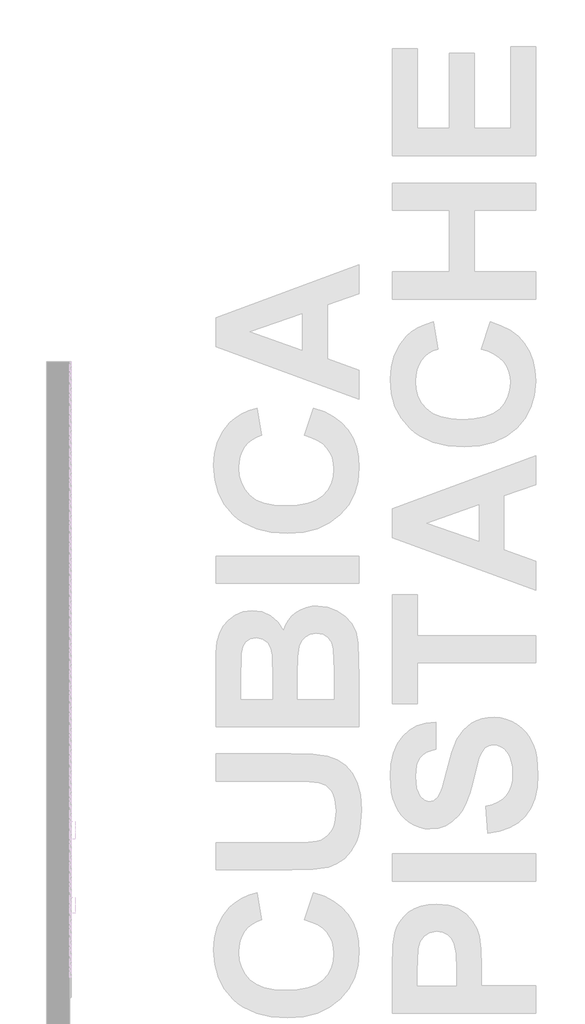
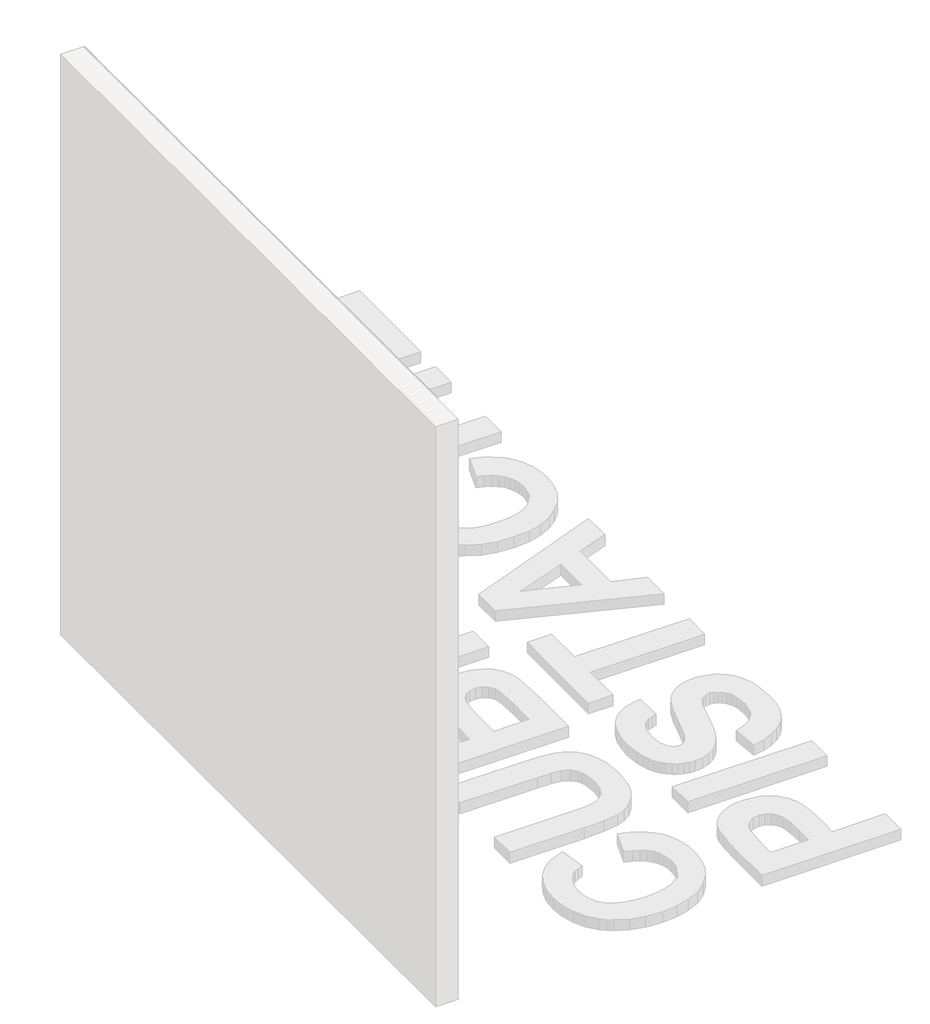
# One storey, part 95 of 121: 143 proxies.
"""IFC4 building model written with IfcOpenShell, lengths in millimetres."""

from ifc_helpers import new_model, si_unit, origin, place, context, project, spatial, transform, mapped, element, save
from components import generic_models_b2b2c5c1, generic_models_9bf73f6f, generic_models_5d175859, generic_models_336a48c1, generic_models_3c04e8e5, generic_models_0bb79e7c, generic_models_61989c10

model = new_model("IFC4")

# Units and contexts
model_context = context("Model", 3, world=origin())
ifc_project = project(units=[si_unit("LENGTHUNIT", "METRE", prefix="MILLI")], contexts=[model_context])

# Site, building, storey
site = spatial("IfcSite", under=ifc_project)
building = spatial("IfcBuilding", under=site)
storey = spatial("IfcBuildingStorey", under=building, Name="PORTOBELLO - SHOWROOM", Elevation=0.0)

# Proxies
placement = place(None, origin())
generic_models_shape = generic_models_b2b2c5c1(model_context)
element("IfcBuildingElementProxy", 1, Name="PBSHOP - CUBICA PISTACHE 4,8X8,3 : CUBICA PISTACHE - POSIÇÃO 01", ObjectType="PBSHOP - CUBICA PISTACHE 4,8X8,3 : CUBICA PISTACHE - POSIÇÃO 01", at=placement, inside=storey, context=model_context, shape_type="MappedRepresentation", body=[
    mapped(generic_models_shape, transform((150369.5341846, 15567.1454575, 1381.3110192), x_axis=(0.0, 1.0, 0.0), y_axis=(0.0, 0.0, 1.0), z_axis=(1.0, 0.0, 0.0))),
])
element("IfcBuildingElementProxy", 2, Name="PBSHOP - CUBICA PISTACHE 4,8X8,3 : CUBICA PISTACHE - POSIÇÃO 01", ObjectType="PBSHOP - CUBICA PISTACHE 4,8X8,3 : CUBICA PISTACHE - POSIÇÃO 01", at=placement, inside=storey, context=model_context, shape_type="MappedRepresentation", body=[
    mapped(generic_models_shape, transform((150369.5341846, 15067.5294767, 1460.2456575), x_axis=(0.0, 1.0, 0.0), y_axis=(0.0, 0.0, 1.0), z_axis=(1.0, 0.0, 0.0))),
])
element("IfcBuildingElementProxy", 3, Name="PBSHOP - CUBICA PISTACHE 4,8X8,3 : CUBICA PISTACHE - POSIÇÃO 01", ObjectType="PBSHOP - CUBICA PISTACHE 4,8X8,3 : CUBICA PISTACHE - POSIÇÃO 01", at=placement, inside=storey, context=model_context, shape_type="MappedRepresentation", body=[
    mapped(generic_models_shape, transform((150369.5341846, 15158.3687459, 1460.2456575), x_axis=(0.0, 1.0, 0.0), y_axis=(0.0, 0.0, 1.0), z_axis=(1.0, 0.0, 0.0))),
])
element("IfcBuildingElementProxy", 4, Name="PBSHOP - CUBICA PISTACHE 4,8X8,3 : CUBICA PISTACHE - POSIÇÃO 01", ObjectType="PBSHOP - CUBICA PISTACHE 4,8X8,3 : CUBICA PISTACHE - POSIÇÃO 01", at=placement, inside=storey, context=model_context, shape_type="MappedRepresentation", body=[
    mapped(generic_models_shape, transform((150369.5341846, 15249.2080152, 1460.2456575), x_axis=(0.0, 1.0, 0.0), y_axis=(0.0, 0.0, 1.0), z_axis=(1.0, 0.0, 0.0))),
])
element("IfcBuildingElementProxy", 5, Name="PBSHOP - CUBICA PISTACHE 4,8X8,3 : CUBICA PISTACHE - POSIÇÃO 01", ObjectType="PBSHOP - CUBICA PISTACHE 4,8X8,3 : CUBICA PISTACHE - POSIÇÃO 01", at=placement, inside=storey, context=model_context, shape_type="MappedRepresentation", body=[
    mapped(generic_models_shape, transform((150369.5341846, 15340.0472844, 1460.2456575), x_axis=(0.0, 1.0, 0.0), y_axis=(0.0, 0.0, 1.0), z_axis=(1.0, 0.0, 0.0))),
])
element("IfcBuildingElementProxy", 6, Name="PBSHOP - CUBICA PISTACHE 4,8X8,3 : CUBICA PISTACHE - POSIÇÃO 01", ObjectType="PBSHOP - CUBICA PISTACHE 4,8X8,3 : CUBICA PISTACHE - POSIÇÃO 01", at=placement, inside=storey, context=model_context, shape_type="MappedRepresentation", body=[
    mapped(generic_models_shape, transform((150369.5341846, 15430.8865536, 1460.2456575), x_axis=(0.0, 1.0, 0.0), y_axis=(0.0, 0.0, 1.0), z_axis=(1.0, 0.0, 0.0))),
])
element("IfcBuildingElementProxy", 7, Name="PBSHOP - CUBICA PISTACHE 4,8X8,3 : CUBICA PISTACHE - POSIÇÃO 01", ObjectType="PBSHOP - CUBICA PISTACHE 4,8X8,3 : CUBICA PISTACHE - POSIÇÃO 01", at=placement, inside=storey, context=model_context, shape_type="MappedRepresentation", body=[
    mapped(generic_models_shape, transform((150369.5341846, 15521.7258229, 1460.2456575), x_axis=(0.0, 1.0, 0.0), y_axis=(0.0, 0.0, 1.0), z_axis=(1.0, 0.0, 0.0))),
])
element("IfcBuildingElementProxy", 8, Name="PBSHOP - CUBICA PISTACHE 4,8X8,3 : CUBICA PISTACHE - POSIÇÃO 01", ObjectType="PBSHOP - CUBICA PISTACHE 4,8X8,3 : CUBICA PISTACHE - POSIÇÃO 01", at=placement, inside=storey, context=model_context, shape_type="MappedRepresentation", body=[
    mapped(generic_models_shape, transform((150369.5341846, 15022.109842, 1539.1802959), x_axis=(0.0, 1.0, 0.0), y_axis=(0.0, 0.0, 1.0), z_axis=(1.0, 0.0, 0.0))),
])
element("IfcBuildingElementProxy", 9, Name="PBSHOP - CUBICA PISTACHE 4,8X8,3 : CUBICA PISTACHE - POSIÇÃO 01", ObjectType="PBSHOP - CUBICA PISTACHE 4,8X8,3 : CUBICA PISTACHE - POSIÇÃO 01", at=placement, inside=storey, context=model_context, shape_type="MappedRepresentation", body=[
    mapped(generic_models_shape, transform((150369.5341846, 15112.9491113, 1539.1802959), x_axis=(0.0, 1.0, 0.0), y_axis=(0.0, 0.0, 1.0), z_axis=(1.0, 0.0, 0.0))),
])
element("IfcBuildingElementProxy", 10, Name="PBSHOP - CUBICA PISTACHE 4,8X8,3 : CUBICA PISTACHE - POSIÇÃO 01", ObjectType="PBSHOP - CUBICA PISTACHE 4,8X8,3 : CUBICA PISTACHE - POSIÇÃO 01", at=placement, inside=storey, context=model_context, shape_type="MappedRepresentation", body=[
    mapped(generic_models_shape, transform((150369.5341846, 15203.7883805, 1539.1802959), x_axis=(0.0, 1.0, 0.0), y_axis=(0.0, 0.0, 1.0), z_axis=(1.0, 0.0, 0.0))),
])
element("IfcBuildingElementProxy", 11, Name="PBSHOP - CUBICA PISTACHE 4,8X8,3 : CUBICA PISTACHE - POSIÇÃO 01", ObjectType="PBSHOP - CUBICA PISTACHE 4,8X8,3 : CUBICA PISTACHE - POSIÇÃO 01", at=placement, inside=storey, context=model_context, shape_type="MappedRepresentation", body=[
    mapped(generic_models_shape, transform((150369.5341846, 15294.6276498, 1539.1802959), x_axis=(0.0, 1.0, 0.0), y_axis=(0.0, 0.0, 1.0), z_axis=(1.0, 0.0, 0.0))),
])
element("IfcBuildingElementProxy", 12, Name="PBSHOP - CUBICA PISTACHE 4,8X8,3 : CUBICA PISTACHE - POSIÇÃO 01", ObjectType="PBSHOP - CUBICA PISTACHE 4,8X8,3 : CUBICA PISTACHE - POSIÇÃO 01", at=placement, inside=storey, context=model_context, shape_type="MappedRepresentation", body=[
    mapped(generic_models_shape, transform((150369.5341846, 15385.466919, 1539.1802959), x_axis=(0.0, 1.0, 0.0), y_axis=(0.0, 0.0, 1.0), z_axis=(1.0, 0.0, 0.0))),
])
element("IfcBuildingElementProxy", 13, Name="PBSHOP - CUBICA PISTACHE 4,8X8,3 : CUBICA PISTACHE - POSIÇÃO 01", ObjectType="PBSHOP - CUBICA PISTACHE 4,8X8,3 : CUBICA PISTACHE - POSIÇÃO 01", at=placement, inside=storey, context=model_context, shape_type="MappedRepresentation", body=[
    mapped(generic_models_shape, transform((150369.5341846, 15476.3061883, 1539.1802959), x_axis=(0.0, 1.0, 0.0), y_axis=(0.0, 0.0, 1.0), z_axis=(1.0, 0.0, 0.0))),
])
element("IfcBuildingElementProxy", 14, Name="PBSHOP - CUBICA PISTACHE 4,8X8,3 : CUBICA PISTACHE - POSIÇÃO 01", ObjectType="PBSHOP - CUBICA PISTACHE 4,8X8,3 : CUBICA PISTACHE - POSIÇÃO 01", at=placement, inside=storey, context=model_context, shape_type="MappedRepresentation", body=[
    mapped(generic_models_shape, transform((150369.5341846, 15567.1454575, 1539.1802959), x_axis=(0.0, 1.0, 0.0), y_axis=(0.0, 0.0, 1.0), z_axis=(1.0, 0.0, 0.0))),
])
element("IfcBuildingElementProxy", 15, Name="PBSHOP - CUBICA PISTACHE 4,8X8,3 : CUBICA PISTACHE - POSIÇÃO 01", ObjectType="PBSHOP - CUBICA PISTACHE 4,8X8,3 : CUBICA PISTACHE - POSIÇÃO 01", at=placement, inside=storey, context=model_context, shape_type="MappedRepresentation", body=[
    mapped(generic_models_shape, transform((150369.5341846, 15067.5294767, 1618.1149343), x_axis=(0.0, 1.0, 0.0), y_axis=(0.0, 0.0, 1.0), z_axis=(1.0, 0.0, 0.0))),
])
element("IfcBuildingElementProxy", 16, Name="PBSHOP - CUBICA PISTACHE 4,8X8,3 : CUBICA PISTACHE - POSIÇÃO 01", ObjectType="PBSHOP - CUBICA PISTACHE 4,8X8,3 : CUBICA PISTACHE - POSIÇÃO 01", at=placement, inside=storey, context=model_context, shape_type="MappedRepresentation", body=[
    mapped(generic_models_shape, transform((150369.5341846, 15158.3687459, 1618.1149343), x_axis=(0.0, 1.0, 0.0), y_axis=(0.0, 0.0, 1.0), z_axis=(1.0, 0.0, 0.0))),
])
element("IfcBuildingElementProxy", 17, Name="PBSHOP - CUBICA PISTACHE 4,8X8,3 : CUBICA PISTACHE - POSIÇÃO 01", ObjectType="PBSHOP - CUBICA PISTACHE 4,8X8,3 : CUBICA PISTACHE - POSIÇÃO 01", at=placement, inside=storey, context=model_context, shape_type="MappedRepresentation", body=[
    mapped(generic_models_shape, transform((150369.5341846, 15249.2080152, 1618.1149343), x_axis=(0.0, 1.0, 0.0), y_axis=(0.0, 0.0, 1.0), z_axis=(1.0, 0.0, 0.0))),
])
element("IfcBuildingElementProxy", 18, Name="PBSHOP - CUBICA PISTACHE 4,8X8,3 : CUBICA PISTACHE - POSIÇÃO 01", ObjectType="PBSHOP - CUBICA PISTACHE 4,8X8,3 : CUBICA PISTACHE - POSIÇÃO 01", at=placement, inside=storey, context=model_context, shape_type="MappedRepresentation", body=[
    mapped(generic_models_shape, transform((150369.5341846, 15340.0472844, 1618.1149343), x_axis=(0.0, 1.0, 0.0), y_axis=(0.0, 0.0, 1.0), z_axis=(1.0, 0.0, 0.0))),
])
element("IfcBuildingElementProxy", 19, Name="PBSHOP - CUBICA PISTACHE 4,8X8,3 : CUBICA PISTACHE - POSIÇÃO 01", ObjectType="PBSHOP - CUBICA PISTACHE 4,8X8,3 : CUBICA PISTACHE - POSIÇÃO 01", at=placement, inside=storey, context=model_context, shape_type="MappedRepresentation", body=[
    mapped(generic_models_shape, transform((150369.5341846, 15430.8865536, 1618.1149343), x_axis=(0.0, 1.0, 0.0), y_axis=(0.0, 0.0, 1.0), z_axis=(1.0, 0.0, 0.0))),
])
element("IfcBuildingElementProxy", 20, Name="PBSHOP - CUBICA PISTACHE 4,8X8,3 : CUBICA PISTACHE - POSIÇÃO 01", ObjectType="PBSHOP - CUBICA PISTACHE 4,8X8,3 : CUBICA PISTACHE - POSIÇÃO 01", at=placement, inside=storey, context=model_context, shape_type="MappedRepresentation", body=[
    mapped(generic_models_shape, transform((150369.5341846, 15521.7258229, 1618.1149343), x_axis=(0.0, 1.0, 0.0), y_axis=(0.0, 0.0, 1.0), z_axis=(1.0, 0.0, 0.0))),
])
element("IfcBuildingElementProxy", 21, Name="PBSHOP - CUBICA PISTACHE 4,8X8,3 : CUBICA PISTACHE - POSIÇÃO 01", ObjectType="PBSHOP - CUBICA PISTACHE 4,8X8,3 : CUBICA PISTACHE - POSIÇÃO 01", at=placement, inside=storey, context=model_context, shape_type="MappedRepresentation", body=[
    mapped(generic_models_shape, transform((150369.5341846, 15022.109842, 1697.0495727), x_axis=(0.0, 1.0, 0.0), y_axis=(0.0, 0.0, 1.0), z_axis=(1.0, 0.0, 0.0))),
])
element("IfcBuildingElementProxy", 22, Name="PBSHOP - CUBICA PISTACHE 4,8X8,3 : CUBICA PISTACHE - POSIÇÃO 01", ObjectType="PBSHOP - CUBICA PISTACHE 4,8X8,3 : CUBICA PISTACHE - POSIÇÃO 01", at=placement, inside=storey, context=model_context, shape_type="MappedRepresentation", body=[
    mapped(generic_models_shape, transform((150369.5341846, 15112.9491113, 1697.0495727), x_axis=(0.0, 1.0, 0.0), y_axis=(0.0, 0.0, 1.0), z_axis=(1.0, 0.0, 0.0))),
])
element("IfcBuildingElementProxy", 23, Name="PBSHOP - CUBICA PISTACHE 4,8X8,3 : CUBICA PISTACHE - POSIÇÃO 01", ObjectType="PBSHOP - CUBICA PISTACHE 4,8X8,3 : CUBICA PISTACHE - POSIÇÃO 01", at=placement, inside=storey, context=model_context, shape_type="MappedRepresentation", body=[
    mapped(generic_models_shape, transform((150369.5341846, 15203.7883805, 1697.0495727), x_axis=(0.0, 1.0, 0.0), y_axis=(0.0, 0.0, 1.0), z_axis=(1.0, 0.0, 0.0))),
])
element("IfcBuildingElementProxy", 24, Name="PBSHOP - CUBICA PISTACHE 4,8X8,3 : CUBICA PISTACHE - POSIÇÃO 01", ObjectType="PBSHOP - CUBICA PISTACHE 4,8X8,3 : CUBICA PISTACHE - POSIÇÃO 01", at=placement, inside=storey, context=model_context, shape_type="MappedRepresentation", body=[
    mapped(generic_models_shape, transform((150369.5341846, 15294.6276498, 1697.0495727), x_axis=(0.0, 1.0, 0.0), y_axis=(0.0, 0.0, 1.0), z_axis=(1.0, 0.0, 0.0))),
])
element("IfcBuildingElementProxy", 25, Name="PBSHOP - CUBICA PISTACHE 4,8X8,3 : CUBICA PISTACHE - POSIÇÃO 01", ObjectType="PBSHOP - CUBICA PISTACHE 4,8X8,3 : CUBICA PISTACHE - POSIÇÃO 01", at=placement, inside=storey, context=model_context, shape_type="MappedRepresentation", body=[
    mapped(generic_models_shape, transform((150369.5341846, 15385.466919, 1697.0495727), x_axis=(0.0, 1.0, 0.0), y_axis=(0.0, 0.0, 1.0), z_axis=(1.0, 0.0, 0.0))),
])
element("IfcBuildingElementProxy", 26, Name="PBSHOP - CUBICA PISTACHE 4,8X8,3 : CUBICA PISTACHE - POSIÇÃO 01", ObjectType="PBSHOP - CUBICA PISTACHE 4,8X8,3 : CUBICA PISTACHE - POSIÇÃO 01", at=placement, inside=storey, context=model_context, shape_type="MappedRepresentation", body=[
    mapped(generic_models_shape, transform((150369.5341846, 15476.3061883, 1697.0495727), x_axis=(0.0, 1.0, 0.0), y_axis=(0.0, 0.0, 1.0), z_axis=(1.0, 0.0, 0.0))),
])
element("IfcBuildingElementProxy", 27, Name="PBSHOP - CUBICA PISTACHE 4,8X8,3 : CUBICA PISTACHE - POSIÇÃO 01", ObjectType="PBSHOP - CUBICA PISTACHE 4,8X8,3 : CUBICA PISTACHE - POSIÇÃO 01", at=placement, inside=storey, context=model_context, shape_type="MappedRepresentation", body=[
    mapped(generic_models_shape, transform((150369.5341846, 15567.1454575, 1697.0495727), x_axis=(0.0, 1.0, 0.0), y_axis=(0.0, 0.0, 1.0), z_axis=(1.0, 0.0, 0.0))),
])
element("IfcBuildingElementProxy", 28, Name="PBSHOP - CUBICA PISTACHE 4,8X8,3 : CUBICA PISTACHE - POSIÇÃO 01", ObjectType="PBSHOP - CUBICA PISTACHE 4,8X8,3 : CUBICA PISTACHE - POSIÇÃO 01", at=placement, inside=storey, context=model_context, shape_type="MappedRepresentation", body=[
    mapped(generic_models_shape, transform((150369.5341846, 15067.5294767, 1775.984211), x_axis=(0.0, 1.0, 0.0), y_axis=(0.0, 0.0, 1.0), z_axis=(1.0, 0.0, 0.0))),
])
element("IfcBuildingElementProxy", 29, Name="PBSHOP - CUBICA PISTACHE 4,8X8,3 : CUBICA PISTACHE - POSIÇÃO 01", ObjectType="PBSHOP - CUBICA PISTACHE 4,8X8,3 : CUBICA PISTACHE - POSIÇÃO 01", at=placement, inside=storey, context=model_context, shape_type="MappedRepresentation", body=[
    mapped(generic_models_shape, transform((150369.5341846, 15158.3687459, 1775.984211), x_axis=(0.0, 1.0, 0.0), y_axis=(0.0, 0.0, 1.0), z_axis=(1.0, 0.0, 0.0))),
])
element("IfcBuildingElementProxy", 30, Name="PBSHOP - CUBICA PISTACHE 4,8X8,3 : CUBICA PISTACHE - POSIÇÃO 01", ObjectType="PBSHOP - CUBICA PISTACHE 4,8X8,3 : CUBICA PISTACHE - POSIÇÃO 01", at=placement, inside=storey, context=model_context, shape_type="MappedRepresentation", body=[
    mapped(generic_models_shape, transform((150369.5341846, 15249.2080152, 1775.984211), x_axis=(0.0, 1.0, 0.0), y_axis=(0.0, 0.0, 1.0), z_axis=(1.0, 0.0, 0.0))),
])
element("IfcBuildingElementProxy", 31, Name="PBSHOP - CUBICA PISTACHE 4,8X8,3 : CUBICA PISTACHE - POSIÇÃO 01", ObjectType="PBSHOP - CUBICA PISTACHE 4,8X8,3 : CUBICA PISTACHE - POSIÇÃO 01", at=placement, inside=storey, context=model_context, shape_type="MappedRepresentation", body=[
    mapped(generic_models_shape, transform((150369.5341846, 15340.0472844, 1775.984211), x_axis=(0.0, 1.0, 0.0), y_axis=(0.0, 0.0, 1.0), z_axis=(1.0, 0.0, 0.0))),
])
element("IfcBuildingElementProxy", 32, Name="PBSHOP - CUBICA PISTACHE 4,8X8,3 : CUBICA PISTACHE - POSIÇÃO 01", ObjectType="PBSHOP - CUBICA PISTACHE 4,8X8,3 : CUBICA PISTACHE - POSIÇÃO 01", at=placement, inside=storey, context=model_context, shape_type="MappedRepresentation", body=[
    mapped(generic_models_shape, transform((150369.5341846, 15430.8865536, 1775.984211), x_axis=(0.0, 1.0, 0.0), y_axis=(0.0, 0.0, 1.0), z_axis=(1.0, 0.0, 0.0))),
])
element("IfcBuildingElementProxy", 33, Name="PBSHOP - CUBICA PISTACHE 4,8X8,3 : CUBICA PISTACHE - POSIÇÃO 01", ObjectType="PBSHOP - CUBICA PISTACHE 4,8X8,3 : CUBICA PISTACHE - POSIÇÃO 01", at=placement, inside=storey, context=model_context, shape_type="MappedRepresentation", body=[
    mapped(generic_models_shape, transform((150369.5341846, 15521.7258229, 1775.984211), x_axis=(0.0, 1.0, 0.0), y_axis=(0.0, 0.0, 1.0), z_axis=(1.0, 0.0, 0.0))),
])
element("IfcBuildingElementProxy", 34, Name="PBSHOP - CUBICA PISTACHE 4,8X8,3 : CUBICA PISTACHE - POSIÇÃO 01", ObjectType="PBSHOP - CUBICA PISTACHE 4,8X8,3 : CUBICA PISTACHE - POSIÇÃO 01", at=placement, inside=storey, context=model_context, shape_type="MappedRepresentation", body=[
    mapped(generic_models_shape, transform((150369.5341846, 15022.109842, 1854.9188494), x_axis=(0.0, 1.0, 0.0), y_axis=(0.0, 0.0, 1.0), z_axis=(1.0, 0.0, 0.0))),
])
element("IfcBuildingElementProxy", 35, Name="PBSHOP - CUBICA PISTACHE 4,8X8,3 : CUBICA PISTACHE - POSIÇÃO 01", ObjectType="PBSHOP - CUBICA PISTACHE 4,8X8,3 : CUBICA PISTACHE - POSIÇÃO 01", at=placement, inside=storey, context=model_context, shape_type="MappedRepresentation", body=[
    mapped(generic_models_shape, transform((150369.5341846, 15112.9491113, 1854.9188494), x_axis=(0.0, 1.0, 0.0), y_axis=(0.0, 0.0, 1.0), z_axis=(1.0, 0.0, 0.0))),
])
element("IfcBuildingElementProxy", 36, Name="PBSHOP - CUBICA PISTACHE 4,8X8,3 : CUBICA PISTACHE - POSIÇÃO 01", ObjectType="PBSHOP - CUBICA PISTACHE 4,8X8,3 : CUBICA PISTACHE - POSIÇÃO 01", at=placement, inside=storey, context=model_context, shape_type="MappedRepresentation", body=[
    mapped(generic_models_shape, transform((150369.5341846, 15203.7883805, 1854.9188494), x_axis=(0.0, 1.0, 0.0), y_axis=(0.0, 0.0, 1.0), z_axis=(1.0, 0.0, 0.0))),
])
element("IfcBuildingElementProxy", 37, Name="PBSHOP - CUBICA PISTACHE 4,8X8,3 : CUBICA PISTACHE - POSIÇÃO 01", ObjectType="PBSHOP - CUBICA PISTACHE 4,8X8,3 : CUBICA PISTACHE - POSIÇÃO 01", at=placement, inside=storey, context=model_context, shape_type="MappedRepresentation", body=[
    mapped(generic_models_shape, transform((150369.5341846, 15294.6276498, 1854.9188494), x_axis=(0.0, 1.0, 0.0), y_axis=(0.0, 0.0, 1.0), z_axis=(1.0, 0.0, 0.0))),
])
element("IfcBuildingElementProxy", 38, Name="PBSHOP - CUBICA PISTACHE 4,8X8,3 : CUBICA PISTACHE - POSIÇÃO 01", ObjectType="PBSHOP - CUBICA PISTACHE 4,8X8,3 : CUBICA PISTACHE - POSIÇÃO 01", at=placement, inside=storey, context=model_context, shape_type="MappedRepresentation", body=[
    mapped(generic_models_shape, transform((150369.5341846, 15385.466919, 1854.9188494), x_axis=(0.0, 1.0, 0.0), y_axis=(0.0, 0.0, 1.0), z_axis=(1.0, 0.0, 0.0))),
])
element("IfcBuildingElementProxy", 39, Name="PBSHOP - CUBICA PISTACHE 4,8X8,3 : CUBICA PISTACHE - POSIÇÃO 01", ObjectType="PBSHOP - CUBICA PISTACHE 4,8X8,3 : CUBICA PISTACHE - POSIÇÃO 01", at=placement, inside=storey, context=model_context, shape_type="MappedRepresentation", body=[
    mapped(generic_models_shape, transform((150369.5341846, 15476.3061883, 1854.9188494), x_axis=(0.0, 1.0, 0.0), y_axis=(0.0, 0.0, 1.0), z_axis=(1.0, 0.0, 0.0))),
])
element("IfcBuildingElementProxy", 40, Name="PBSHOP - CUBICA PISTACHE 4,8X8,3 : CUBICA PISTACHE - POSIÇÃO 01", ObjectType="PBSHOP - CUBICA PISTACHE 4,8X8,3 : CUBICA PISTACHE - POSIÇÃO 01", at=placement, inside=storey, context=model_context, shape_type="MappedRepresentation", body=[
    mapped(generic_models_shape, transform((150369.5341846, 15567.1454575, 1854.9188494), x_axis=(0.0, 1.0, 0.0), y_axis=(0.0, 0.0, 1.0), z_axis=(1.0, 0.0, 0.0))),
])
element("IfcBuildingElementProxy", 41, Name="PBSHOP - CUBICA PISTACHE 4,8X8,3 : CUBICA PISTACHE - POSIÇÃO 01", ObjectType="PBSHOP - CUBICA PISTACHE 4,8X8,3 : CUBICA PISTACHE - POSIÇÃO 01", at=placement, inside=storey, context=model_context, shape_type="MappedRepresentation", body=[
    mapped(generic_models_shape, transform((150369.5341846, 15067.5294767, 1933.8534878), x_axis=(0.0, 1.0, 0.0), y_axis=(0.0, 0.0, 1.0), z_axis=(1.0, 0.0, 0.0))),
])
element("IfcBuildingElementProxy", 42, Name="PBSHOP - CUBICA PISTACHE 4,8X8,3 : CUBICA PISTACHE - POSIÇÃO 01", ObjectType="PBSHOP - CUBICA PISTACHE 4,8X8,3 : CUBICA PISTACHE - POSIÇÃO 01", at=placement, inside=storey, context=model_context, shape_type="MappedRepresentation", body=[
    mapped(generic_models_shape, transform((150369.5341846, 15158.3687459, 1933.8534878), x_axis=(0.0, 1.0, 0.0), y_axis=(0.0, 0.0, 1.0), z_axis=(1.0, 0.0, 0.0))),
])
element("IfcBuildingElementProxy", 43, Name="PBSHOP - CUBICA PISTACHE 4,8X8,3 : CUBICA PISTACHE - POSIÇÃO 01", ObjectType="PBSHOP - CUBICA PISTACHE 4,8X8,3 : CUBICA PISTACHE - POSIÇÃO 01", at=placement, inside=storey, context=model_context, shape_type="MappedRepresentation", body=[
    mapped(generic_models_shape, transform((150369.5341846, 15249.2080152, 1933.8534878), x_axis=(0.0, 1.0, 0.0), y_axis=(0.0, 0.0, 1.0), z_axis=(1.0, 0.0, 0.0))),
])
generic_models_2_shape = generic_models_9bf73f6f(model_context)
element("IfcBuildingElementProxy", 44, Name="PBSHOP - CUBICA PISTACHE 4,8X8,3 : CUBICA PISTACHE - POSIÇÃO 03", ObjectType="PBSHOP - CUBICA PISTACHE 4,8X8,3 : CUBICA PISTACHE - POSIÇÃO 03", at=placement, inside=storey, context=model_context, shape_type="MappedRepresentation", body=[
    mapped(generic_models_2_shape, transform((150369.5341846, 15090.2414531, 1341.8024896), x_axis=(0.0, 1.0, 0.0), y_axis=(0.0, 0.0, 1.0), z_axis=(1.0, 0.0, 0.0))),
])
element("IfcBuildingElementProxy", 45, Name="PBSHOP - CUBICA PISTACHE 4,8X8,3 : CUBICA PISTACHE - POSIÇÃO 03", ObjectType="PBSHOP - CUBICA PISTACHE 4,8X8,3 : CUBICA PISTACHE - POSIÇÃO 03", at=placement, inside=storey, context=model_context, shape_type="MappedRepresentation", body=[
    mapped(generic_models_2_shape, transform((150369.5341846, 15181.0807224, 1341.8024896), x_axis=(0.0, 1.0, 0.0), y_axis=(0.0, 0.0, 1.0), z_axis=(1.0, 0.0, 0.0))),
])
element("IfcBuildingElementProxy", 46, Name="PBSHOP - CUBICA PISTACHE 4,8X8,3 : CUBICA PISTACHE - POSIÇÃO 03", ObjectType="PBSHOP - CUBICA PISTACHE 4,8X8,3 : CUBICA PISTACHE - POSIÇÃO 03", at=placement, inside=storey, context=model_context, shape_type="MappedRepresentation", body=[
    mapped(generic_models_2_shape, transform((150369.5341846, 15271.9199916, 1341.8024896), x_axis=(0.0, 1.0, 0.0), y_axis=(0.0, 0.0, 1.0), z_axis=(1.0, 0.0, 0.0))),
])
element("IfcBuildingElementProxy", 47, Name="PBSHOP - CUBICA PISTACHE 4,8X8,3 : CUBICA PISTACHE - POSIÇÃO 03", ObjectType="PBSHOP - CUBICA PISTACHE 4,8X8,3 : CUBICA PISTACHE - POSIÇÃO 03", at=placement, inside=storey, context=model_context, shape_type="MappedRepresentation", body=[
    mapped(generic_models_2_shape, transform((150369.5341846, 15362.7592609, 1341.8024896), x_axis=(0.0, 1.0, 0.0), y_axis=(0.0, 0.0, 1.0), z_axis=(1.0, 0.0, 0.0))),
])
element("IfcBuildingElementProxy", 48, Name="PBSHOP - CUBICA PISTACHE 4,8X8,3 : CUBICA PISTACHE - POSIÇÃO 03", ObjectType="PBSHOP - CUBICA PISTACHE 4,8X8,3 : CUBICA PISTACHE - POSIÇÃO 03", at=placement, inside=storey, context=model_context, shape_type="MappedRepresentation", body=[
    mapped(generic_models_2_shape, transform((150369.5341846, 15453.5985301, 1341.8024896), x_axis=(0.0, 1.0, 0.0), y_axis=(0.0, 0.0, 1.0), z_axis=(1.0, 0.0, 0.0))),
])
element("IfcBuildingElementProxy", 49, Name="PBSHOP - CUBICA PISTACHE 4,8X8,3 : CUBICA PISTACHE - POSIÇÃO 03", ObjectType="PBSHOP - CUBICA PISTACHE 4,8X8,3 : CUBICA PISTACHE - POSIÇÃO 03", at=placement, inside=storey, context=model_context, shape_type="MappedRepresentation", body=[
    mapped(generic_models_2_shape, transform((150369.5341846, 15544.4377994, 1341.8024896), x_axis=(0.0, 1.0, 0.0), y_axis=(0.0, 0.0, 1.0), z_axis=(1.0, 0.0, 0.0))),
])
element("IfcBuildingElementProxy", 50, Name="PBSHOP - CUBICA PISTACHE 4,8X8,3 : CUBICA PISTACHE - POSIÇÃO 03", ObjectType="PBSHOP - CUBICA PISTACHE 4,8X8,3 : CUBICA PISTACHE - POSIÇÃO 03", at=placement, inside=storey, context=model_context, shape_type="MappedRepresentation", body=[
    mapped(generic_models_2_shape, transform((150369.5341846, 15044.8218185, 1420.7371279), x_axis=(0.0, 1.0, 0.0), y_axis=(0.0, 0.0, 1.0), z_axis=(1.0, 0.0, 0.0))),
])
element("IfcBuildingElementProxy", 51, Name="PBSHOP - CUBICA PISTACHE 4,8X8,3 : CUBICA PISTACHE - POSIÇÃO 03", ObjectType="PBSHOP - CUBICA PISTACHE 4,8X8,3 : CUBICA PISTACHE - POSIÇÃO 03", at=placement, inside=storey, context=model_context, shape_type="MappedRepresentation", body=[
    mapped(generic_models_2_shape, transform((150369.5341846, 15135.6610878, 1420.7371279), x_axis=(0.0, 1.0, 0.0), y_axis=(0.0, 0.0, 1.0), z_axis=(1.0, 0.0, 0.0))),
])
element("IfcBuildingElementProxy", 52, Name="PBSHOP - CUBICA PISTACHE 4,8X8,3 : CUBICA PISTACHE - POSIÇÃO 03", ObjectType="PBSHOP - CUBICA PISTACHE 4,8X8,3 : CUBICA PISTACHE - POSIÇÃO 03", at=placement, inside=storey, context=model_context, shape_type="MappedRepresentation", body=[
    mapped(generic_models_2_shape, transform((150369.5341846, 15226.500357, 1420.7371279), x_axis=(0.0, 1.0, 0.0), y_axis=(0.0, 0.0, 1.0), z_axis=(1.0, 0.0, 0.0))),
])
element("IfcBuildingElementProxy", 53, Name="PBSHOP - CUBICA PISTACHE 4,8X8,3 : CUBICA PISTACHE - POSIÇÃO 03", ObjectType="PBSHOP - CUBICA PISTACHE 4,8X8,3 : CUBICA PISTACHE - POSIÇÃO 03", at=placement, inside=storey, context=model_context, shape_type="MappedRepresentation", body=[
    mapped(generic_models_2_shape, transform((150369.5341846, 15317.3396263, 1420.7371279), x_axis=(0.0, 1.0, 0.0), y_axis=(0.0, 0.0, 1.0), z_axis=(1.0, 0.0, 0.0))),
])
element("IfcBuildingElementProxy", 54, Name="PBSHOP - CUBICA PISTACHE 4,8X8,3 : CUBICA PISTACHE - POSIÇÃO 03", ObjectType="PBSHOP - CUBICA PISTACHE 4,8X8,3 : CUBICA PISTACHE - POSIÇÃO 03", at=placement, inside=storey, context=model_context, shape_type="MappedRepresentation", body=[
    mapped(generic_models_2_shape, transform((150369.5341846, 15408.1788955, 1420.7371279), x_axis=(0.0, 1.0, 0.0), y_axis=(0.0, 0.0, 1.0), z_axis=(1.0, 0.0, 0.0))),
])
element("IfcBuildingElementProxy", 55, Name="PBSHOP - CUBICA PISTACHE 4,8X8,3 : CUBICA PISTACHE - POSIÇÃO 03", ObjectType="PBSHOP - CUBICA PISTACHE 4,8X8,3 : CUBICA PISTACHE - POSIÇÃO 03", at=placement, inside=storey, context=model_context, shape_type="MappedRepresentation", body=[
    mapped(generic_models_2_shape, transform((150369.5341846, 15499.0181647, 1420.7371279), x_axis=(0.0, 1.0, 0.0), y_axis=(0.0, 0.0, 1.0), z_axis=(1.0, 0.0, 0.0))),
])
element("IfcBuildingElementProxy", 56, Name="PBSHOP - CUBICA PISTACHE 4,8X8,3 : CUBICA PISTACHE - POSIÇÃO 03", ObjectType="PBSHOP - CUBICA PISTACHE 4,8X8,3 : CUBICA PISTACHE - POSIÇÃO 03", at=placement, inside=storey, context=model_context, shape_type="MappedRepresentation", body=[
    mapped(generic_models_2_shape, transform((150369.5341846, 15090.2414531, 1499.6717663), x_axis=(0.0, 1.0, 0.0), y_axis=(0.0, 0.0, 1.0), z_axis=(1.0, 0.0, 0.0))),
])
element("IfcBuildingElementProxy", 57, Name="PBSHOP - CUBICA PISTACHE 4,8X8,3 : CUBICA PISTACHE - POSIÇÃO 03", ObjectType="PBSHOP - CUBICA PISTACHE 4,8X8,3 : CUBICA PISTACHE - POSIÇÃO 03", at=placement, inside=storey, context=model_context, shape_type="MappedRepresentation", body=[
    mapped(generic_models_2_shape, transform((150369.5341846, 15181.0807224, 1499.6717663), x_axis=(0.0, 1.0, 0.0), y_axis=(0.0, 0.0, 1.0), z_axis=(1.0, 0.0, 0.0))),
])
element("IfcBuildingElementProxy", 58, Name="PBSHOP - CUBICA PISTACHE 4,8X8,3 : CUBICA PISTACHE - POSIÇÃO 03", ObjectType="PBSHOP - CUBICA PISTACHE 4,8X8,3 : CUBICA PISTACHE - POSIÇÃO 03", at=placement, inside=storey, context=model_context, shape_type="MappedRepresentation", body=[
    mapped(generic_models_2_shape, transform((150369.5341846, 15271.9199916, 1499.6717663), x_axis=(0.0, 1.0, 0.0), y_axis=(0.0, 0.0, 1.0), z_axis=(1.0, 0.0, 0.0))),
])
element("IfcBuildingElementProxy", 59, Name="PBSHOP - CUBICA PISTACHE 4,8X8,3 : CUBICA PISTACHE - POSIÇÃO 03", ObjectType="PBSHOP - CUBICA PISTACHE 4,8X8,3 : CUBICA PISTACHE - POSIÇÃO 03", at=placement, inside=storey, context=model_context, shape_type="MappedRepresentation", body=[
    mapped(generic_models_2_shape, transform((150369.5341846, 15362.7592609, 1499.6717663), x_axis=(0.0, 1.0, 0.0), y_axis=(0.0, 0.0, 1.0), z_axis=(1.0, 0.0, 0.0))),
])
element("IfcBuildingElementProxy", 60, Name="PBSHOP - CUBICA PISTACHE 4,8X8,3 : CUBICA PISTACHE - POSIÇÃO 03", ObjectType="PBSHOP - CUBICA PISTACHE 4,8X8,3 : CUBICA PISTACHE - POSIÇÃO 03", at=placement, inside=storey, context=model_context, shape_type="MappedRepresentation", body=[
    mapped(generic_models_2_shape, transform((150369.5341846, 15453.5985301, 1499.6717663), x_axis=(0.0, 1.0, 0.0), y_axis=(0.0, 0.0, 1.0), z_axis=(1.0, 0.0, 0.0))),
])
element("IfcBuildingElementProxy", 61, Name="PBSHOP - CUBICA PISTACHE 4,8X8,3 : CUBICA PISTACHE - POSIÇÃO 03", ObjectType="PBSHOP - CUBICA PISTACHE 4,8X8,3 : CUBICA PISTACHE - POSIÇÃO 03", at=placement, inside=storey, context=model_context, shape_type="MappedRepresentation", body=[
    mapped(generic_models_2_shape, transform((150369.5341846, 15544.4377994, 1499.6717663), x_axis=(0.0, 1.0, 0.0), y_axis=(0.0, 0.0, 1.0), z_axis=(1.0, 0.0, 0.0))),
])
element("IfcBuildingElementProxy", 62, Name="PBSHOP - CUBICA PISTACHE 4,8X8,3 : CUBICA PISTACHE - POSIÇÃO 03", ObjectType="PBSHOP - CUBICA PISTACHE 4,8X8,3 : CUBICA PISTACHE - POSIÇÃO 03", at=placement, inside=storey, context=model_context, shape_type="MappedRepresentation", body=[
    mapped(generic_models_2_shape, transform((150369.5341846, 15044.8218185, 1578.6064047), x_axis=(0.0, 1.0, 0.0), y_axis=(0.0, 0.0, 1.0), z_axis=(1.0, 0.0, 0.0))),
])
element("IfcBuildingElementProxy", 63, Name="PBSHOP - CUBICA PISTACHE 4,8X8,3 : CUBICA PISTACHE - POSIÇÃO 03", ObjectType="PBSHOP - CUBICA PISTACHE 4,8X8,3 : CUBICA PISTACHE - POSIÇÃO 03", at=placement, inside=storey, context=model_context, shape_type="MappedRepresentation", body=[
    mapped(generic_models_2_shape, transform((150369.5341846, 15135.6610878, 1578.6064047), x_axis=(0.0, 1.0, 0.0), y_axis=(0.0, 0.0, 1.0), z_axis=(1.0, 0.0, 0.0))),
])
element("IfcBuildingElementProxy", 64, Name="PBSHOP - CUBICA PISTACHE 4,8X8,3 : CUBICA PISTACHE - POSIÇÃO 03", ObjectType="PBSHOP - CUBICA PISTACHE 4,8X8,3 : CUBICA PISTACHE - POSIÇÃO 03", at=placement, inside=storey, context=model_context, shape_type="MappedRepresentation", body=[
    mapped(generic_models_2_shape, transform((150369.5341846, 15226.500357, 1578.6064047), x_axis=(0.0, 1.0, 0.0), y_axis=(0.0, 0.0, 1.0), z_axis=(1.0, 0.0, 0.0))),
])
element("IfcBuildingElementProxy", 65, Name="PBSHOP - CUBICA PISTACHE 4,8X8,3 : CUBICA PISTACHE - POSIÇÃO 03", ObjectType="PBSHOP - CUBICA PISTACHE 4,8X8,3 : CUBICA PISTACHE - POSIÇÃO 03", at=placement, inside=storey, context=model_context, shape_type="MappedRepresentation", body=[
    mapped(generic_models_2_shape, transform((150369.5341846, 15317.3396263, 1578.6064047), x_axis=(0.0, 1.0, 0.0), y_axis=(0.0, 0.0, 1.0), z_axis=(1.0, 0.0, 0.0))),
])
element("IfcBuildingElementProxy", 66, Name="PBSHOP - CUBICA PISTACHE 4,8X8,3 : CUBICA PISTACHE - POSIÇÃO 03", ObjectType="PBSHOP - CUBICA PISTACHE 4,8X8,3 : CUBICA PISTACHE - POSIÇÃO 03", at=placement, inside=storey, context=model_context, shape_type="MappedRepresentation", body=[
    mapped(generic_models_2_shape, transform((150369.5341846, 15408.1788955, 1578.6064047), x_axis=(0.0, 1.0, 0.0), y_axis=(0.0, 0.0, 1.0), z_axis=(1.0, 0.0, 0.0))),
])
element("IfcBuildingElementProxy", 67, Name="PBSHOP - CUBICA PISTACHE 4,8X8,3 : CUBICA PISTACHE - POSIÇÃO 03", ObjectType="PBSHOP - CUBICA PISTACHE 4,8X8,3 : CUBICA PISTACHE - POSIÇÃO 03", at=placement, inside=storey, context=model_context, shape_type="MappedRepresentation", body=[
    mapped(generic_models_2_shape, transform((150369.5341846, 15499.0181647, 1578.6064047), x_axis=(0.0, 1.0, 0.0), y_axis=(0.0, 0.0, 1.0), z_axis=(1.0, 0.0, 0.0))),
])
element("IfcBuildingElementProxy", 68, Name="PBSHOP - CUBICA PISTACHE 4,8X8,3 : CUBICA PISTACHE - POSIÇÃO 03", ObjectType="PBSHOP - CUBICA PISTACHE 4,8X8,3 : CUBICA PISTACHE - POSIÇÃO 03", at=placement, inside=storey, context=model_context, shape_type="MappedRepresentation", body=[
    mapped(generic_models_2_shape, transform((150369.5341846, 15090.2414531, 1657.5410431), x_axis=(0.0, 1.0, 0.0), y_axis=(0.0, 0.0, 1.0), z_axis=(1.0, 0.0, 0.0))),
])
element("IfcBuildingElementProxy", 69, Name="PBSHOP - CUBICA PISTACHE 4,8X8,3 : CUBICA PISTACHE - POSIÇÃO 03", ObjectType="PBSHOP - CUBICA PISTACHE 4,8X8,3 : CUBICA PISTACHE - POSIÇÃO 03", at=placement, inside=storey, context=model_context, shape_type="MappedRepresentation", body=[
    mapped(generic_models_2_shape, transform((150369.5341846, 15181.0807224, 1657.5410431), x_axis=(0.0, 1.0, 0.0), y_axis=(0.0, 0.0, 1.0), z_axis=(1.0, 0.0, 0.0))),
])
element("IfcBuildingElementProxy", 70, Name="PBSHOP - CUBICA PISTACHE 4,8X8,3 : CUBICA PISTACHE - POSIÇÃO 03", ObjectType="PBSHOP - CUBICA PISTACHE 4,8X8,3 : CUBICA PISTACHE - POSIÇÃO 03", at=placement, inside=storey, context=model_context, shape_type="MappedRepresentation", body=[
    mapped(generic_models_2_shape, transform((150369.5341846, 15271.9199916, 1657.5410431), x_axis=(0.0, 1.0, 0.0), y_axis=(0.0, 0.0, 1.0), z_axis=(1.0, 0.0, 0.0))),
])
element("IfcBuildingElementProxy", 71, Name="PBSHOP - CUBICA PISTACHE 4,8X8,3 : CUBICA PISTACHE - POSIÇÃO 03", ObjectType="PBSHOP - CUBICA PISTACHE 4,8X8,3 : CUBICA PISTACHE - POSIÇÃO 03", at=placement, inside=storey, context=model_context, shape_type="MappedRepresentation", body=[
    mapped(generic_models_2_shape, transform((150369.5341846, 15362.7592609, 1657.5410431), x_axis=(0.0, 1.0, 0.0), y_axis=(0.0, 0.0, 1.0), z_axis=(1.0, 0.0, 0.0))),
])
element("IfcBuildingElementProxy", 72, Name="PBSHOP - CUBICA PISTACHE 4,8X8,3 : CUBICA PISTACHE - POSIÇÃO 03", ObjectType="PBSHOP - CUBICA PISTACHE 4,8X8,3 : CUBICA PISTACHE - POSIÇÃO 03", at=placement, inside=storey, context=model_context, shape_type="MappedRepresentation", body=[
    mapped(generic_models_2_shape, transform((150369.5341846, 15453.5985301, 1657.5410431), x_axis=(0.0, 1.0, 0.0), y_axis=(0.0, 0.0, 1.0), z_axis=(1.0, 0.0, 0.0))),
])
element("IfcBuildingElementProxy", 73, Name="PBSHOP - CUBICA PISTACHE 4,8X8,3 : CUBICA PISTACHE - POSIÇÃO 03", ObjectType="PBSHOP - CUBICA PISTACHE 4,8X8,3 : CUBICA PISTACHE - POSIÇÃO 03", at=placement, inside=storey, context=model_context, shape_type="MappedRepresentation", body=[
    mapped(generic_models_2_shape, transform((150369.5341846, 15544.4377994, 1657.5410431), x_axis=(0.0, 1.0, 0.0), y_axis=(0.0, 0.0, 1.0), z_axis=(1.0, 0.0, 0.0))),
])
element("IfcBuildingElementProxy", 74, Name="PBSHOP - CUBICA PISTACHE 4,8X8,3 : CUBICA PISTACHE - POSIÇÃO 03", ObjectType="PBSHOP - CUBICA PISTACHE 4,8X8,3 : CUBICA PISTACHE - POSIÇÃO 03", at=placement, inside=storey, context=model_context, shape_type="MappedRepresentation", body=[
    mapped(generic_models_2_shape, transform((150369.5341846, 15044.8218185, 1736.4756814), x_axis=(0.0, 1.0, 0.0), y_axis=(0.0, 0.0, 1.0), z_axis=(1.0, 0.0, 0.0))),
])
element("IfcBuildingElementProxy", 75, Name="PBSHOP - CUBICA PISTACHE 4,8X8,3 : CUBICA PISTACHE - POSIÇÃO 03", ObjectType="PBSHOP - CUBICA PISTACHE 4,8X8,3 : CUBICA PISTACHE - POSIÇÃO 03", at=placement, inside=storey, context=model_context, shape_type="MappedRepresentation", body=[
    mapped(generic_models_2_shape, transform((150369.5341846, 15135.6610878, 1736.4756814), x_axis=(0.0, 1.0, 0.0), y_axis=(0.0, 0.0, 1.0), z_axis=(1.0, 0.0, 0.0))),
])
element("IfcBuildingElementProxy", 76, Name="PBSHOP - CUBICA PISTACHE 4,8X8,3 : CUBICA PISTACHE - POSIÇÃO 03", ObjectType="PBSHOP - CUBICA PISTACHE 4,8X8,3 : CUBICA PISTACHE - POSIÇÃO 03", at=placement, inside=storey, context=model_context, shape_type="MappedRepresentation", body=[
    mapped(generic_models_2_shape, transform((150369.5341846, 15226.500357, 1736.4756814), x_axis=(0.0, 1.0, 0.0), y_axis=(0.0, 0.0, 1.0), z_axis=(1.0, 0.0, 0.0))),
])
element("IfcBuildingElementProxy", 77, Name="PBSHOP - CUBICA PISTACHE 4,8X8,3 : CUBICA PISTACHE - POSIÇÃO 03", ObjectType="PBSHOP - CUBICA PISTACHE 4,8X8,3 : CUBICA PISTACHE - POSIÇÃO 03", at=placement, inside=storey, context=model_context, shape_type="MappedRepresentation", body=[
    mapped(generic_models_2_shape, transform((150369.5341846, 15317.3396263, 1736.4756814), x_axis=(0.0, 1.0, 0.0), y_axis=(0.0, 0.0, 1.0), z_axis=(1.0, 0.0, 0.0))),
])
element("IfcBuildingElementProxy", 78, Name="PBSHOP - CUBICA PISTACHE 4,8X8,3 : CUBICA PISTACHE - POSIÇÃO 03", ObjectType="PBSHOP - CUBICA PISTACHE 4,8X8,3 : CUBICA PISTACHE - POSIÇÃO 03", at=placement, inside=storey, context=model_context, shape_type="MappedRepresentation", body=[
    mapped(generic_models_2_shape, transform((150369.5341846, 15408.1788955, 1736.4756814), x_axis=(0.0, 1.0, 0.0), y_axis=(0.0, 0.0, 1.0), z_axis=(1.0, 0.0, 0.0))),
])
element("IfcBuildingElementProxy", 79, Name="PBSHOP - CUBICA PISTACHE 4,8X8,3 : CUBICA PISTACHE - POSIÇÃO 03", ObjectType="PBSHOP - CUBICA PISTACHE 4,8X8,3 : CUBICA PISTACHE - POSIÇÃO 03", at=placement, inside=storey, context=model_context, shape_type="MappedRepresentation", body=[
    mapped(generic_models_2_shape, transform((150369.5341846, 15499.0181647, 1736.4756814), x_axis=(0.0, 1.0, 0.0), y_axis=(0.0, 0.0, 1.0), z_axis=(1.0, 0.0, 0.0))),
])
element("IfcBuildingElementProxy", 80, Name="PBSHOP - CUBICA PISTACHE 4,8X8,3 : CUBICA PISTACHE - POSIÇÃO 03", ObjectType="PBSHOP - CUBICA PISTACHE 4,8X8,3 : CUBICA PISTACHE - POSIÇÃO 03", at=placement, inside=storey, context=model_context, shape_type="MappedRepresentation", body=[
    mapped(generic_models_2_shape, transform((150369.5341846, 15090.2414531, 1815.4103198), x_axis=(0.0, 1.0, 0.0), y_axis=(0.0, 0.0, 1.0), z_axis=(1.0, 0.0, 0.0))),
])
element("IfcBuildingElementProxy", 81, Name="PBSHOP - CUBICA PISTACHE 4,8X8,3 : CUBICA PISTACHE - POSIÇÃO 03", ObjectType="PBSHOP - CUBICA PISTACHE 4,8X8,3 : CUBICA PISTACHE - POSIÇÃO 03", at=placement, inside=storey, context=model_context, shape_type="MappedRepresentation", body=[
    mapped(generic_models_2_shape, transform((150369.5341846, 15181.0807224, 1815.4103198), x_axis=(0.0, 1.0, 0.0), y_axis=(0.0, 0.0, 1.0), z_axis=(1.0, 0.0, 0.0))),
])
element("IfcBuildingElementProxy", 82, Name="PBSHOP - CUBICA PISTACHE 4,8X8,3 : CUBICA PISTACHE - POSIÇÃO 03", ObjectType="PBSHOP - CUBICA PISTACHE 4,8X8,3 : CUBICA PISTACHE - POSIÇÃO 03", at=placement, inside=storey, context=model_context, shape_type="MappedRepresentation", body=[
    mapped(generic_models_2_shape, transform((150369.5341846, 15271.9199916, 1815.4103198), x_axis=(0.0, 1.0, 0.0), y_axis=(0.0, 0.0, 1.0), z_axis=(1.0, 0.0, 0.0))),
])
element("IfcBuildingElementProxy", 83, Name="PBSHOP - CUBICA PISTACHE 4,8X8,3 : CUBICA PISTACHE - POSIÇÃO 03", ObjectType="PBSHOP - CUBICA PISTACHE 4,8X8,3 : CUBICA PISTACHE - POSIÇÃO 03", at=placement, inside=storey, context=model_context, shape_type="MappedRepresentation", body=[
    mapped(generic_models_2_shape, transform((150369.5341846, 15362.7592609, 1815.4103198), x_axis=(0.0, 1.0, 0.0), y_axis=(0.0, 0.0, 1.0), z_axis=(1.0, 0.0, 0.0))),
])
element("IfcBuildingElementProxy", 84, Name="PBSHOP - CUBICA PISTACHE 4,8X8,3 : CUBICA PISTACHE - POSIÇÃO 03", ObjectType="PBSHOP - CUBICA PISTACHE 4,8X8,3 : CUBICA PISTACHE - POSIÇÃO 03", at=placement, inside=storey, context=model_context, shape_type="MappedRepresentation", body=[
    mapped(generic_models_2_shape, transform((150369.5341846, 15453.5985301, 1815.4103198), x_axis=(0.0, 1.0, 0.0), y_axis=(0.0, 0.0, 1.0), z_axis=(1.0, 0.0, 0.0))),
])
element("IfcBuildingElementProxy", 85, Name="PBSHOP - CUBICA PISTACHE 4,8X8,3 : CUBICA PISTACHE - POSIÇÃO 03", ObjectType="PBSHOP - CUBICA PISTACHE 4,8X8,3 : CUBICA PISTACHE - POSIÇÃO 03", at=placement, inside=storey, context=model_context, shape_type="MappedRepresentation", body=[
    mapped(generic_models_2_shape, transform((150369.5341846, 15544.4377994, 1815.4103198), x_axis=(0.0, 1.0, 0.0), y_axis=(0.0, 0.0, 1.0), z_axis=(1.0, 0.0, 0.0))),
])
generic_models_3_shape = generic_models_5d175859(model_context)
element("IfcBuildingElementProxy", 86, Name="PBSHOP - CUBICA PISTACHE 4,8X8,3 : CUBICA PISTACHE - POSIÇÃO 01", ObjectType="PBSHOP - CUBICA PISTACHE 4,8X8,3 : CUBICA PISTACHE - POSIÇÃO 01", at=placement, inside=storey, context=model_context, shape_type="MappedRepresentation", body=[
    mapped(generic_models_3_shape, transform((150369.5341846, 15521.7301412, 1381.3110192), x_axis=(0.0, -1.0, 0.0), y_axis=(0.0, 0.0, -1.0), z_axis=(1.0, 0.0, 0.0))),
])
element("IfcBuildingElementProxy", 87, Name="PBSHOP - CUBICA PISTACHE 4,8X8,3 : CUBICA PISTACHE - POSIÇÃO 01", ObjectType="PBSHOP - CUBICA PISTACHE 4,8X8,3 : CUBICA PISTACHE - POSIÇÃO 01", at=placement, inside=storey, context=model_context, shape_type="MappedRepresentation", body=[
    mapped(generic_models_3_shape, transform((150369.5341846, 15022.1141604, 1460.2456575), x_axis=(0.0, -1.0, 0.0), y_axis=(0.0, 0.0, -1.0), z_axis=(1.0, 0.0, 0.0))),
])
element("IfcBuildingElementProxy", 88, Name="PBSHOP - CUBICA PISTACHE 4,8X8,3 : CUBICA PISTACHE - POSIÇÃO 01", ObjectType="PBSHOP - CUBICA PISTACHE 4,8X8,3 : CUBICA PISTACHE - POSIÇÃO 01", at=placement, inside=storey, context=model_context, shape_type="MappedRepresentation", body=[
    mapped(generic_models_3_shape, transform((150369.5341846, 15112.9534296, 1460.2456575), x_axis=(0.0, -1.0, 0.0), y_axis=(0.0, 0.0, -1.0), z_axis=(1.0, 0.0, 0.0))),
])
element("IfcBuildingElementProxy", 89, Name="PBSHOP - CUBICA PISTACHE 4,8X8,3 : CUBICA PISTACHE - POSIÇÃO 01", ObjectType="PBSHOP - CUBICA PISTACHE 4,8X8,3 : CUBICA PISTACHE - POSIÇÃO 01", at=placement, inside=storey, context=model_context, shape_type="MappedRepresentation", body=[
    mapped(generic_models_3_shape, transform((150369.5341846, 15203.7926989, 1460.2456575), x_axis=(0.0, -1.0, 0.0), y_axis=(0.0, 0.0, -1.0), z_axis=(1.0, 0.0, 0.0))),
])
element("IfcBuildingElementProxy", 90, Name="PBSHOP - CUBICA PISTACHE 4,8X8,3 : CUBICA PISTACHE - POSIÇÃO 01", ObjectType="PBSHOP - CUBICA PISTACHE 4,8X8,3 : CUBICA PISTACHE - POSIÇÃO 01", at=placement, inside=storey, context=model_context, shape_type="MappedRepresentation", body=[
    mapped(generic_models_3_shape, transform((150369.5341846, 15294.6319681, 1460.2456575), x_axis=(0.0, -1.0, 0.0), y_axis=(0.0, 0.0, -1.0), z_axis=(1.0, 0.0, 0.0))),
])
element("IfcBuildingElementProxy", 91, Name="PBSHOP - CUBICA PISTACHE 4,8X8,3 : CUBICA PISTACHE - POSIÇÃO 01", ObjectType="PBSHOP - CUBICA PISTACHE 4,8X8,3 : CUBICA PISTACHE - POSIÇÃO 01", at=placement, inside=storey, context=model_context, shape_type="MappedRepresentation", body=[
    mapped(generic_models_3_shape, transform((150369.5341846, 15385.4712374, 1460.2456575), x_axis=(0.0, -1.0, 0.0), y_axis=(0.0, 0.0, -1.0), z_axis=(1.0, 0.0, 0.0))),
])
element("IfcBuildingElementProxy", 92, Name="PBSHOP - CUBICA PISTACHE 4,8X8,3 : CUBICA PISTACHE - POSIÇÃO 01", ObjectType="PBSHOP - CUBICA PISTACHE 4,8X8,3 : CUBICA PISTACHE - POSIÇÃO 01", at=placement, inside=storey, context=model_context, shape_type="MappedRepresentation", body=[
    mapped(generic_models_3_shape, transform((150369.5341846, 15476.3105066, 1460.2456575), x_axis=(0.0, -1.0, 0.0), y_axis=(0.0, 0.0, -1.0), z_axis=(1.0, 0.0, 0.0))),
])
element("IfcBuildingElementProxy", 93, Name="PBSHOP - CUBICA PISTACHE 4,8X8,3 : CUBICA PISTACHE - POSIÇÃO 01", ObjectType="PBSHOP - CUBICA PISTACHE 4,8X8,3 : CUBICA PISTACHE - POSIÇÃO 01", at=placement, inside=storey, context=model_context, shape_type="MappedRepresentation", body=[
    mapped(generic_models_3_shape, transform((150369.5341846, 15567.1497758, 1460.2456575), x_axis=(0.0, -1.0, 0.0), y_axis=(0.0, 0.0, -1.0), z_axis=(1.0, 0.0, 0.0))),
])
element("IfcBuildingElementProxy", 94, Name="PBSHOP - CUBICA PISTACHE 4,8X8,3 : CUBICA PISTACHE - POSIÇÃO 01", ObjectType="PBSHOP - CUBICA PISTACHE 4,8X8,3 : CUBICA PISTACHE - POSIÇÃO 01", at=placement, inside=storey, context=model_context, shape_type="MappedRepresentation", body=[
    mapped(generic_models_3_shape, transform((150369.5341846, 15067.533795, 1539.1802959), x_axis=(0.0, -1.0, 0.0), y_axis=(0.0, 0.0, -1.0), z_axis=(1.0, 0.0, 0.0))),
])
element("IfcBuildingElementProxy", 95, Name="PBSHOP - CUBICA PISTACHE 4,8X8,3 : CUBICA PISTACHE - POSIÇÃO 01", ObjectType="PBSHOP - CUBICA PISTACHE 4,8X8,3 : CUBICA PISTACHE - POSIÇÃO 01", at=placement, inside=storey, context=model_context, shape_type="MappedRepresentation", body=[
    mapped(generic_models_3_shape, transform((150369.5341846, 15158.3730642, 1539.1802959), x_axis=(0.0, -1.0, 0.0), y_axis=(0.0, 0.0, -1.0), z_axis=(1.0, 0.0, 0.0))),
])
element("IfcBuildingElementProxy", 96, Name="PBSHOP - CUBICA PISTACHE 4,8X8,3 : CUBICA PISTACHE - POSIÇÃO 01", ObjectType="PBSHOP - CUBICA PISTACHE 4,8X8,3 : CUBICA PISTACHE - POSIÇÃO 01", at=placement, inside=storey, context=model_context, shape_type="MappedRepresentation", body=[
    mapped(generic_models_3_shape, transform((150369.5341846, 15249.2123335, 1539.1802959), x_axis=(0.0, -1.0, 0.0), y_axis=(0.0, 0.0, -1.0), z_axis=(1.0, 0.0, 0.0))),
])
element("IfcBuildingElementProxy", 97, Name="PBSHOP - CUBICA PISTACHE 4,8X8,3 : CUBICA PISTACHE - POSIÇÃO 01", ObjectType="PBSHOP - CUBICA PISTACHE 4,8X8,3 : CUBICA PISTACHE - POSIÇÃO 01", at=placement, inside=storey, context=model_context, shape_type="MappedRepresentation", body=[
    mapped(generic_models_3_shape, transform((150369.5341846, 15340.0516027, 1539.1802959), x_axis=(0.0, -1.0, 0.0), y_axis=(0.0, 0.0, -1.0), z_axis=(1.0, 0.0, 0.0))),
])
element("IfcBuildingElementProxy", 98, Name="PBSHOP - CUBICA PISTACHE 4,8X8,3 : CUBICA PISTACHE - POSIÇÃO 01", ObjectType="PBSHOP - CUBICA PISTACHE 4,8X8,3 : CUBICA PISTACHE - POSIÇÃO 01", at=placement, inside=storey, context=model_context, shape_type="MappedRepresentation", body=[
    mapped(generic_models_3_shape, transform((150369.5341846, 15430.890872, 1539.1802959), x_axis=(0.0, -1.0, 0.0), y_axis=(0.0, 0.0, -1.0), z_axis=(1.0, 0.0, 0.0))),
])
element("IfcBuildingElementProxy", 99, Name="PBSHOP - CUBICA PISTACHE 4,8X8,3 : CUBICA PISTACHE - POSIÇÃO 01", ObjectType="PBSHOP - CUBICA PISTACHE 4,8X8,3 : CUBICA PISTACHE - POSIÇÃO 01", at=placement, inside=storey, context=model_context, shape_type="MappedRepresentation", body=[
    mapped(generic_models_3_shape, transform((150369.5341846, 15521.7301412, 1539.1802959), x_axis=(0.0, -1.0, 0.0), y_axis=(0.0, 0.0, -1.0), z_axis=(1.0, 0.0, 0.0))),
])
element("IfcBuildingElementProxy", 100, Name="PBSHOP - CUBICA PISTACHE 4,8X8,3 : CUBICA PISTACHE - POSIÇÃO 01", ObjectType="PBSHOP - CUBICA PISTACHE 4,8X8,3 : CUBICA PISTACHE - POSIÇÃO 01", at=placement, inside=storey, context=model_context, shape_type="MappedRepresentation", body=[
    mapped(generic_models_3_shape, transform((150369.5341846, 15022.1141604, 1618.1149343), x_axis=(0.0, -1.0, 0.0), y_axis=(0.0, 0.0, -1.0), z_axis=(1.0, 0.0, 0.0))),
])
element("IfcBuildingElementProxy", 101, Name="PBSHOP - CUBICA PISTACHE 4,8X8,3 : CUBICA PISTACHE - POSIÇÃO 01", ObjectType="PBSHOP - CUBICA PISTACHE 4,8X8,3 : CUBICA PISTACHE - POSIÇÃO 01", at=placement, inside=storey, context=model_context, shape_type="MappedRepresentation", body=[
    mapped(generic_models_3_shape, transform((150369.5341846, 15112.9534296, 1618.1149343), x_axis=(0.0, -1.0, 0.0), y_axis=(0.0, 0.0, -1.0), z_axis=(1.0, 0.0, 0.0))),
])
element("IfcBuildingElementProxy", 102, Name="PBSHOP - CUBICA PISTACHE 4,8X8,3 : CUBICA PISTACHE - POSIÇÃO 01", ObjectType="PBSHOP - CUBICA PISTACHE 4,8X8,3 : CUBICA PISTACHE - POSIÇÃO 01", at=placement, inside=storey, context=model_context, shape_type="MappedRepresentation", body=[
    mapped(generic_models_3_shape, transform((150369.5341846, 15203.7926989, 1618.1149343), x_axis=(0.0, -1.0, 0.0), y_axis=(0.0, 0.0, -1.0), z_axis=(1.0, 0.0, 0.0))),
])
element("IfcBuildingElementProxy", 103, Name="PBSHOP - CUBICA PISTACHE 4,8X8,3 : CUBICA PISTACHE - POSIÇÃO 01", ObjectType="PBSHOP - CUBICA PISTACHE 4,8X8,3 : CUBICA PISTACHE - POSIÇÃO 01", at=placement, inside=storey, context=model_context, shape_type="MappedRepresentation", body=[
    mapped(generic_models_3_shape, transform((150369.5341846, 15294.6319681, 1618.1149343), x_axis=(0.0, -1.0, 0.0), y_axis=(0.0, 0.0, -1.0), z_axis=(1.0, 0.0, 0.0))),
])
element("IfcBuildingElementProxy", 104, Name="PBSHOP - CUBICA PISTACHE 4,8X8,3 : CUBICA PISTACHE - POSIÇÃO 01", ObjectType="PBSHOP - CUBICA PISTACHE 4,8X8,3 : CUBICA PISTACHE - POSIÇÃO 01", at=placement, inside=storey, context=model_context, shape_type="MappedRepresentation", body=[
    mapped(generic_models_3_shape, transform((150369.5341846, 15385.4712374, 1618.1149343), x_axis=(0.0, -1.0, 0.0), y_axis=(0.0, 0.0, -1.0), z_axis=(1.0, 0.0, 0.0))),
])
element("IfcBuildingElementProxy", 105, Name="PBSHOP - CUBICA PISTACHE 4,8X8,3 : CUBICA PISTACHE - POSIÇÃO 01", ObjectType="PBSHOP - CUBICA PISTACHE 4,8X8,3 : CUBICA PISTACHE - POSIÇÃO 01", at=placement, inside=storey, context=model_context, shape_type="MappedRepresentation", body=[
    mapped(generic_models_3_shape, transform((150369.5341846, 15476.3105066, 1618.1149343), x_axis=(0.0, -1.0, 0.0), y_axis=(0.0, 0.0, -1.0), z_axis=(1.0, 0.0, 0.0))),
])
element("IfcBuildingElementProxy", 106, Name="PBSHOP - CUBICA PISTACHE 4,8X8,3 : CUBICA PISTACHE - POSIÇÃO 01", ObjectType="PBSHOP - CUBICA PISTACHE 4,8X8,3 : CUBICA PISTACHE - POSIÇÃO 01", at=placement, inside=storey, context=model_context, shape_type="MappedRepresentation", body=[
    mapped(generic_models_3_shape, transform((150369.5341846, 15567.1497758, 1618.1149343), x_axis=(0.0, -1.0, 0.0), y_axis=(0.0, 0.0, -1.0), z_axis=(1.0, 0.0, 0.0))),
])
element("IfcBuildingElementProxy", 107, Name="PBSHOP - CUBICA PISTACHE 4,8X8,3 : CUBICA PISTACHE - POSIÇÃO 01", ObjectType="PBSHOP - CUBICA PISTACHE 4,8X8,3 : CUBICA PISTACHE - POSIÇÃO 01", at=placement, inside=storey, context=model_context, shape_type="MappedRepresentation", body=[
    mapped(generic_models_3_shape, transform((150369.5341846, 15067.533795, 1697.0495727), x_axis=(0.0, -1.0, 0.0), y_axis=(0.0, 0.0, -1.0), z_axis=(1.0, 0.0, 0.0))),
])
element("IfcBuildingElementProxy", 108, Name="PBSHOP - CUBICA PISTACHE 4,8X8,3 : CUBICA PISTACHE - POSIÇÃO 01", ObjectType="PBSHOP - CUBICA PISTACHE 4,8X8,3 : CUBICA PISTACHE - POSIÇÃO 01", at=placement, inside=storey, context=model_context, shape_type="MappedRepresentation", body=[
    mapped(generic_models_3_shape, transform((150369.5341846, 15158.3730642, 1697.0495727), x_axis=(0.0, -1.0, 0.0), y_axis=(0.0, 0.0, -1.0), z_axis=(1.0, 0.0, 0.0))),
])
element("IfcBuildingElementProxy", 109, Name="PBSHOP - CUBICA PISTACHE 4,8X8,3 : CUBICA PISTACHE - POSIÇÃO 01", ObjectType="PBSHOP - CUBICA PISTACHE 4,8X8,3 : CUBICA PISTACHE - POSIÇÃO 01", at=placement, inside=storey, context=model_context, shape_type="MappedRepresentation", body=[
    mapped(generic_models_3_shape, transform((150369.5341846, 15249.2123335, 1697.0495727), x_axis=(0.0, -1.0, 0.0), y_axis=(0.0, 0.0, -1.0), z_axis=(1.0, 0.0, 0.0))),
])
element("IfcBuildingElementProxy", 110, Name="PBSHOP - CUBICA PISTACHE 4,8X8,3 : CUBICA PISTACHE - POSIÇÃO 01", ObjectType="PBSHOP - CUBICA PISTACHE 4,8X8,3 : CUBICA PISTACHE - POSIÇÃO 01", at=placement, inside=storey, context=model_context, shape_type="MappedRepresentation", body=[
    mapped(generic_models_3_shape, transform((150369.5341846, 15340.0516027, 1697.0495727), x_axis=(0.0, -1.0, 0.0), y_axis=(0.0, 0.0, -1.0), z_axis=(1.0, 0.0, 0.0))),
])
element("IfcBuildingElementProxy", 111, Name="PBSHOP - CUBICA PISTACHE 4,8X8,3 : CUBICA PISTACHE - POSIÇÃO 01", ObjectType="PBSHOP - CUBICA PISTACHE 4,8X8,3 : CUBICA PISTACHE - POSIÇÃO 01", at=placement, inside=storey, context=model_context, shape_type="MappedRepresentation", body=[
    mapped(generic_models_3_shape, transform((150369.5341846, 15430.890872, 1697.0495727), x_axis=(0.0, -1.0, 0.0), y_axis=(0.0, 0.0, -1.0), z_axis=(1.0, 0.0, 0.0))),
])
element("IfcBuildingElementProxy", 112, Name="PBSHOP - CUBICA PISTACHE 4,8X8,3 : CUBICA PISTACHE - POSIÇÃO 01", ObjectType="PBSHOP - CUBICA PISTACHE 4,8X8,3 : CUBICA PISTACHE - POSIÇÃO 01", at=placement, inside=storey, context=model_context, shape_type="MappedRepresentation", body=[
    mapped(generic_models_3_shape, transform((150369.5341846, 15521.7301412, 1697.0495727), x_axis=(0.0, -1.0, 0.0), y_axis=(0.0, 0.0, -1.0), z_axis=(1.0, 0.0, 0.0))),
])
element("IfcBuildingElementProxy", 113, Name="PBSHOP - CUBICA PISTACHE 4,8X8,3 : CUBICA PISTACHE - POSIÇÃO 01", ObjectType="PBSHOP - CUBICA PISTACHE 4,8X8,3 : CUBICA PISTACHE - POSIÇÃO 01", at=placement, inside=storey, context=model_context, shape_type="MappedRepresentation", body=[
    mapped(generic_models_3_shape, transform((150369.5341846, 15022.1141604, 1775.984211), x_axis=(0.0, -1.0, 0.0), y_axis=(0.0, 0.0, -1.0), z_axis=(1.0, 0.0, 0.0))),
])
element("IfcBuildingElementProxy", 114, Name="PBSHOP - CUBICA PISTACHE 4,8X8,3 : CUBICA PISTACHE - POSIÇÃO 01", ObjectType="PBSHOP - CUBICA PISTACHE 4,8X8,3 : CUBICA PISTACHE - POSIÇÃO 01", at=placement, inside=storey, context=model_context, shape_type="MappedRepresentation", body=[
    mapped(generic_models_3_shape, transform((150369.5341846, 15112.9534296, 1775.984211), x_axis=(0.0, -1.0, 0.0), y_axis=(0.0, 0.0, -1.0), z_axis=(1.0, 0.0, 0.0))),
])
element("IfcBuildingElementProxy", 115, Name="PBSHOP - CUBICA PISTACHE 4,8X8,3 : CUBICA PISTACHE - POSIÇÃO 01", ObjectType="PBSHOP - CUBICA PISTACHE 4,8X8,3 : CUBICA PISTACHE - POSIÇÃO 01", at=placement, inside=storey, context=model_context, shape_type="MappedRepresentation", body=[
    mapped(generic_models_3_shape, transform((150369.5341846, 15203.7926989, 1775.984211), x_axis=(0.0, -1.0, 0.0), y_axis=(0.0, 0.0, -1.0), z_axis=(1.0, 0.0, 0.0))),
])
element("IfcBuildingElementProxy", 116, Name="PBSHOP - CUBICA PISTACHE 4,8X8,3 : CUBICA PISTACHE - POSIÇÃO 01", ObjectType="PBSHOP - CUBICA PISTACHE 4,8X8,3 : CUBICA PISTACHE - POSIÇÃO 01", at=placement, inside=storey, context=model_context, shape_type="MappedRepresentation", body=[
    mapped(generic_models_3_shape, transform((150369.5341846, 15294.6319681, 1775.984211), x_axis=(0.0, -1.0, 0.0), y_axis=(0.0, 0.0, -1.0), z_axis=(1.0, 0.0, 0.0))),
])
element("IfcBuildingElementProxy", 117, Name="PBSHOP - CUBICA PISTACHE 4,8X8,3 : CUBICA PISTACHE - POSIÇÃO 01", ObjectType="PBSHOP - CUBICA PISTACHE 4,8X8,3 : CUBICA PISTACHE - POSIÇÃO 01", at=placement, inside=storey, context=model_context, shape_type="MappedRepresentation", body=[
    mapped(generic_models_3_shape, transform((150369.5341846, 15385.4712374, 1775.984211), x_axis=(0.0, -1.0, 0.0), y_axis=(0.0, 0.0, -1.0), z_axis=(1.0, 0.0, 0.0))),
])
element("IfcBuildingElementProxy", 118, Name="PBSHOP - CUBICA PISTACHE 4,8X8,3 : CUBICA PISTACHE - POSIÇÃO 01", ObjectType="PBSHOP - CUBICA PISTACHE 4,8X8,3 : CUBICA PISTACHE - POSIÇÃO 01", at=placement, inside=storey, context=model_context, shape_type="MappedRepresentation", body=[
    mapped(generic_models_3_shape, transform((150369.5341846, 15476.3105066, 1775.984211), x_axis=(0.0, -1.0, 0.0), y_axis=(0.0, 0.0, -1.0), z_axis=(1.0, 0.0, 0.0))),
])
element("IfcBuildingElementProxy", 119, Name="PBSHOP - CUBICA PISTACHE 4,8X8,3 : CUBICA PISTACHE - POSIÇÃO 01", ObjectType="PBSHOP - CUBICA PISTACHE 4,8X8,3 : CUBICA PISTACHE - POSIÇÃO 01", at=placement, inside=storey, context=model_context, shape_type="MappedRepresentation", body=[
    mapped(generic_models_3_shape, transform((150369.5341846, 15567.1497758, 1775.984211), x_axis=(0.0, -1.0, 0.0), y_axis=(0.0, 0.0, -1.0), z_axis=(1.0, 0.0, 0.0))),
])
element("IfcBuildingElementProxy", 120, Name="PBSHOP - CUBICA PISTACHE 4,8X8,3 : CUBICA PISTACHE - POSIÇÃO 01", ObjectType="PBSHOP - CUBICA PISTACHE 4,8X8,3 : CUBICA PISTACHE - POSIÇÃO 01", at=placement, inside=storey, context=model_context, shape_type="MappedRepresentation", body=[
    mapped(generic_models_3_shape, transform((150369.5341846, 15067.533795, 1854.9188494), x_axis=(0.0, -1.0, 0.0), y_axis=(0.0, 0.0, -1.0), z_axis=(1.0, 0.0, 0.0))),
])
element("IfcBuildingElementProxy", 121, Name="PBSHOP - CUBICA PISTACHE 4,8X8,3 : CUBICA PISTACHE - POSIÇÃO 01", ObjectType="PBSHOP - CUBICA PISTACHE 4,8X8,3 : CUBICA PISTACHE - POSIÇÃO 01", at=placement, inside=storey, context=model_context, shape_type="MappedRepresentation", body=[
    mapped(generic_models_3_shape, transform((150369.5341846, 15158.3730642, 1854.9188494), x_axis=(0.0, -1.0, 0.0), y_axis=(0.0, 0.0, -1.0), z_axis=(1.0, 0.0, 0.0))),
])
element("IfcBuildingElementProxy", 122, Name="PBSHOP - CUBICA PISTACHE 4,8X8,3 : CUBICA PISTACHE - POSIÇÃO 01", ObjectType="PBSHOP - CUBICA PISTACHE 4,8X8,3 : CUBICA PISTACHE - POSIÇÃO 01", at=placement, inside=storey, context=model_context, shape_type="MappedRepresentation", body=[
    mapped(generic_models_3_shape, transform((150369.5341846, 15249.2123335, 1854.9188494), x_axis=(0.0, -1.0, 0.0), y_axis=(0.0, 0.0, -1.0), z_axis=(1.0, 0.0, 0.0))),
])
element("IfcBuildingElementProxy", 123, Name="PBSHOP - CUBICA PISTACHE 4,8X8,3 : CUBICA PISTACHE - POSIÇÃO 01", ObjectType="PBSHOP - CUBICA PISTACHE 4,8X8,3 : CUBICA PISTACHE - POSIÇÃO 01", at=placement, inside=storey, context=model_context, shape_type="MappedRepresentation", body=[
    mapped(generic_models_3_shape, transform((150369.5341846, 15340.0516027, 1854.9188494), x_axis=(0.0, -1.0, 0.0), y_axis=(0.0, 0.0, -1.0), z_axis=(1.0, 0.0, 0.0))),
])
element("IfcBuildingElementProxy", 124, Name="PBSHOP - CUBICA PISTACHE 4,8X8,3 : CUBICA PISTACHE - POSIÇÃO 01", ObjectType="PBSHOP - CUBICA PISTACHE 4,8X8,3 : CUBICA PISTACHE - POSIÇÃO 01", at=placement, inside=storey, context=model_context, shape_type="MappedRepresentation", body=[
    mapped(generic_models_3_shape, transform((150369.5341846, 15430.890872, 1854.9188494), x_axis=(0.0, -1.0, 0.0), y_axis=(0.0, 0.0, -1.0), z_axis=(1.0, 0.0, 0.0))),
])
element("IfcBuildingElementProxy", 125, Name="PBSHOP - CUBICA PISTACHE 4,8X8,3 : CUBICA PISTACHE - POSIÇÃO 01", ObjectType="PBSHOP - CUBICA PISTACHE 4,8X8,3 : CUBICA PISTACHE - POSIÇÃO 01", at=placement, inside=storey, context=model_context, shape_type="MappedRepresentation", body=[
    mapped(generic_models_3_shape, transform((150369.5341846, 15521.7301412, 1854.9188494), x_axis=(0.0, -1.0, 0.0), y_axis=(0.0, 0.0, -1.0), z_axis=(1.0, 0.0, 0.0))),
])
element("IfcBuildingElementProxy", 126, Name="PBSHOP - CUBICA PISTACHE 4,8X8,3 : CUBICA PISTACHE - POSIÇÃO 01", ObjectType="PBSHOP - CUBICA PISTACHE 4,8X8,3 : CUBICA PISTACHE - POSIÇÃO 01", at=placement, inside=storey, context=model_context, shape_type="MappedRepresentation", body=[
    mapped(generic_models_3_shape, transform((150369.5341846, 15022.1141604, 1933.8534878), x_axis=(0.0, -1.0, 0.0), y_axis=(0.0, 0.0, -1.0), z_axis=(1.0, 0.0, 0.0))),
])
element("IfcBuildingElementProxy", 127, Name="PBSHOP - CUBICA PISTACHE 4,8X8,3 : CUBICA PISTACHE - POSIÇÃO 01", ObjectType="PBSHOP - CUBICA PISTACHE 4,8X8,3 : CUBICA PISTACHE - POSIÇÃO 01", at=placement, inside=storey, context=model_context, shape_type="MappedRepresentation", body=[
    mapped(generic_models_3_shape, transform((150369.5341846, 15112.9534296, 1933.8534878), x_axis=(0.0, -1.0, 0.0), y_axis=(0.0, 0.0, -1.0), z_axis=(1.0, 0.0, 0.0))),
])
element("IfcBuildingElementProxy", 128, Name="PBSHOP - CUBICA PISTACHE 4,8X8,3 : CUBICA PISTACHE - POSIÇÃO 01", ObjectType="PBSHOP - CUBICA PISTACHE 4,8X8,3 : CUBICA PISTACHE - POSIÇÃO 01", at=placement, inside=storey, context=model_context, shape_type="MappedRepresentation", body=[
    mapped(generic_models_3_shape, transform((150369.5341846, 15203.7926989, 1933.8534878), x_axis=(0.0, -1.0, 0.0), y_axis=(0.0, 0.0, -1.0), z_axis=(1.0, 0.0, 0.0))),
])
element("IfcBuildingElementProxy", 129, Name="PBSHOP - CUBICA PISTACHE 4,8X8,3 : CUBICA PISTACHE - POSIÇÃO 01", ObjectType="PBSHOP - CUBICA PISTACHE 4,8X8,3 : CUBICA PISTACHE - POSIÇÃO 01", at=placement, inside=storey, context=model_context, shape_type="MappedRepresentation", body=[
    mapped(generic_models_3_shape, transform((150369.5341846, 15294.6319681, 1933.8534878), x_axis=(0.0, -1.0, 0.0), y_axis=(0.0, 0.0, -1.0), z_axis=(1.0, 0.0, 0.0))),
])
generic_models_4_shape = generic_models_336a48c1(model_context)
element("IfcBuildingElementProxy", 130, Name="PBSHOP - CUBICA PISTACHE 4,8X8,3 : CUBICA PISTACHE - POSIÇÃO 03", ObjectType="PBSHOP - CUBICA PISTACHE 4,8X8,3 : CUBICA PISTACHE - POSIÇÃO 03", at=placement, inside=storey, context=model_context, shape_type="MappedRepresentation", body=[
    mapped(generic_models_4_shape, transform((150369.5341846, 15635.2770686, 1341.8024896), x_axis=(0.0, 1.0, 0.0), y_axis=(0.0, 0.0, 1.0), z_axis=(1.0, 0.0, 0.0))),
])
element("IfcBuildingElementProxy", 131, Name="PBSHOP - CUBICA PISTACHE 4,8X8,3 : CUBICA PISTACHE - POSIÇÃO 03", ObjectType="PBSHOP - CUBICA PISTACHE 4,8X8,3 : CUBICA PISTACHE - POSIÇÃO 03", at=placement, inside=storey, context=model_context, shape_type="MappedRepresentation", body=[
    mapped(generic_models_4_shape, transform((150369.5341846, 15635.2770686, 1499.6717663), x_axis=(0.0, 1.0, 0.0), y_axis=(0.0, 0.0, 1.0), z_axis=(1.0, 0.0, 0.0))),
])
element("IfcBuildingElementProxy", 132, Name="PBSHOP - CUBICA PISTACHE 4,8X8,3 : CUBICA PISTACHE - POSIÇÃO 03", ObjectType="PBSHOP - CUBICA PISTACHE 4,8X8,3 : CUBICA PISTACHE - POSIÇÃO 03", at=placement, inside=storey, context=model_context, shape_type="MappedRepresentation", body=[
    mapped(generic_models_4_shape, transform((150369.5341846, 15635.2770686, 1657.5410431), x_axis=(0.0, 1.0, 0.0), y_axis=(0.0, 0.0, 1.0), z_axis=(1.0, 0.0, 0.0))),
])
element("IfcBuildingElementProxy", 133, Name="PBSHOP - CUBICA PISTACHE 4,8X8,3 : CUBICA PISTACHE - POSIÇÃO 03", ObjectType="PBSHOP - CUBICA PISTACHE 4,8X8,3 : CUBICA PISTACHE - POSIÇÃO 03", at=placement, inside=storey, context=model_context, shape_type="MappedRepresentation", body=[
    mapped(generic_models_4_shape, transform((150369.5341846, 15635.2770686, 1815.4103198), x_axis=(0.0, 1.0, 0.0), y_axis=(0.0, 0.0, 1.0), z_axis=(1.0, 0.0, 0.0))),
])
generic_models_5_shape = generic_models_3c04e8e5(model_context)
element("IfcBuildingElementProxy", 134, Name="PBSHOP - CUBICA PISTACHE 4,8X8,3 : CUBICA PISTACHE - POSIÇÃO 01", ObjectType="PBSHOP - CUBICA PISTACHE 4,8X8,3 : CUBICA PISTACHE - POSIÇÃO 01", at=placement, inside=storey, context=model_context, shape_type="MappedRepresentation", body=[
    mapped(generic_models_5_shape, transform((150369.5341846, 15612.5650921, 1460.2456575), x_axis=(0.0, 1.0, 0.0), y_axis=(0.0, 0.0, 1.0), z_axis=(1.0, 0.0, 0.0))),
])
element("IfcBuildingElementProxy", 135, Name="PBSHOP - CUBICA PISTACHE 4,8X8,3 : CUBICA PISTACHE - POSIÇÃO 01", ObjectType="PBSHOP - CUBICA PISTACHE 4,8X8,3 : CUBICA PISTACHE - POSIÇÃO 01", at=placement, inside=storey, context=model_context, shape_type="MappedRepresentation", body=[
    mapped(generic_models_5_shape, transform((150369.5341846, 15612.5650921, 1618.1149343), x_axis=(0.0, 1.0, 0.0), y_axis=(0.0, 0.0, 1.0), z_axis=(1.0, 0.0, 0.0))),
])
element("IfcBuildingElementProxy", 136, Name="PBSHOP - CUBICA PISTACHE 4,8X8,3 : CUBICA PISTACHE - POSIÇÃO 01", ObjectType="PBSHOP - CUBICA PISTACHE 4,8X8,3 : CUBICA PISTACHE - POSIÇÃO 01", at=placement, inside=storey, context=model_context, shape_type="MappedRepresentation", body=[
    mapped(generic_models_5_shape, transform((150369.5341846, 15612.5650921, 1775.984211), x_axis=(0.0, 1.0, 0.0), y_axis=(0.0, 0.0, 1.0), z_axis=(1.0, 0.0, 0.0))),
])
generic_models_6_shape = generic_models_0bb79e7c(model_context)
element("IfcBuildingElementProxy", 137, Name="PBSHOP - CUBICA PISTACHE 4,8X8,3 : CUBICA PISTACHE - POSIÇÃO 03", ObjectType="PBSHOP - CUBICA PISTACHE 4,8X8,3 : CUBICA PISTACHE - POSIÇÃO 03", at=placement, inside=storey, context=model_context, shape_type="MappedRepresentation", body=[
    mapped(generic_models_6_shape, transform((150369.5341846, 15589.857434, 1420.7371279), x_axis=(0.0, 1.0, 0.0), y_axis=(0.0, 0.0, 1.0), z_axis=(1.0, 0.0, 0.0))),
])
element("IfcBuildingElementProxy", 138, Name="PBSHOP - CUBICA PISTACHE 4,8X8,3 : CUBICA PISTACHE - POSIÇÃO 03", ObjectType="PBSHOP - CUBICA PISTACHE 4,8X8,3 : CUBICA PISTACHE - POSIÇÃO 03", at=placement, inside=storey, context=model_context, shape_type="MappedRepresentation", body=[
    mapped(generic_models_6_shape, transform((150369.5341846, 15589.857434, 1578.6064047), x_axis=(0.0, 1.0, 0.0), y_axis=(0.0, 0.0, 1.0), z_axis=(1.0, 0.0, 0.0))),
])
element("IfcBuildingElementProxy", 139, Name="PBSHOP - CUBICA PISTACHE 4,8X8,3 : CUBICA PISTACHE - POSIÇÃO 03", ObjectType="PBSHOP - CUBICA PISTACHE 4,8X8,3 : CUBICA PISTACHE - POSIÇÃO 03", at=placement, inside=storey, context=model_context, shape_type="MappedRepresentation", body=[
    mapped(generic_models_6_shape, transform((150369.5341846, 15589.857434, 1736.4756814), x_axis=(0.0, 1.0, 0.0), y_axis=(0.0, 0.0, 1.0), z_axis=(1.0, 0.0, 0.0))),
])
generic_models_7_shape = generic_models_61989c10(model_context)
element("IfcBuildingElementProxy", 140, Name="PBSHOP - CUBICA PISTACHE 4,8X8,3 : CUBICA PISTACHE - POSIÇÃO 01", ObjectType="PBSHOP - CUBICA PISTACHE 4,8X8,3 : CUBICA PISTACHE - POSIÇÃO 01", at=placement, inside=storey, context=model_context, shape_type="MappedRepresentation", body=[
    mapped(generic_models_7_shape, transform((150369.5341846, 15612.5694105, 1381.3110192), x_axis=(0.0, -1.0, 0.0), y_axis=(0.0, 0.0, -1.0), z_axis=(1.0, 0.0, 0.0))),
])
element("IfcBuildingElementProxy", 141, Name="PBSHOP - CUBICA PISTACHE 4,8X8,3 : CUBICA PISTACHE - POSIÇÃO 01", ObjectType="PBSHOP - CUBICA PISTACHE 4,8X8,3 : CUBICA PISTACHE - POSIÇÃO 01", at=placement, inside=storey, context=model_context, shape_type="MappedRepresentation", body=[
    mapped(generic_models_7_shape, transform((150369.5341846, 15612.5694105, 1539.1802959), x_axis=(0.0, -1.0, 0.0), y_axis=(0.0, 0.0, -1.0), z_axis=(1.0, 0.0, 0.0))),
])
element("IfcBuildingElementProxy", 142, Name="PBSHOP - CUBICA PISTACHE 4,8X8,3 : CUBICA PISTACHE - POSIÇÃO 01", ObjectType="PBSHOP - CUBICA PISTACHE 4,8X8,3 : CUBICA PISTACHE - POSIÇÃO 01", at=placement, inside=storey, context=model_context, shape_type="MappedRepresentation", body=[
    mapped(generic_models_7_shape, transform((150369.5341846, 15612.5694105, 1697.0495727), x_axis=(0.0, -1.0, 0.0), y_axis=(0.0, 0.0, -1.0), z_axis=(1.0, 0.0, 0.0))),
])
element("IfcBuildingElementProxy", 143, Name="PBSHOP - CUBICA PISTACHE 4,8X8,3 : CUBICA PISTACHE - POSIÇÃO 01", ObjectType="PBSHOP - CUBICA PISTACHE 4,8X8,3 : CUBICA PISTACHE - POSIÇÃO 01", at=placement, inside=storey, context=model_context, shape_type="MappedRepresentation", body=[
    mapped(generic_models_7_shape, transform((150369.5341846, 15612.5694105, 1854.9188494), x_axis=(0.0, -1.0, 0.0), y_axis=(0.0, 0.0, -1.0), z_axis=(1.0, 0.0, 0.0))),
])

save(model, "model.ifc")
